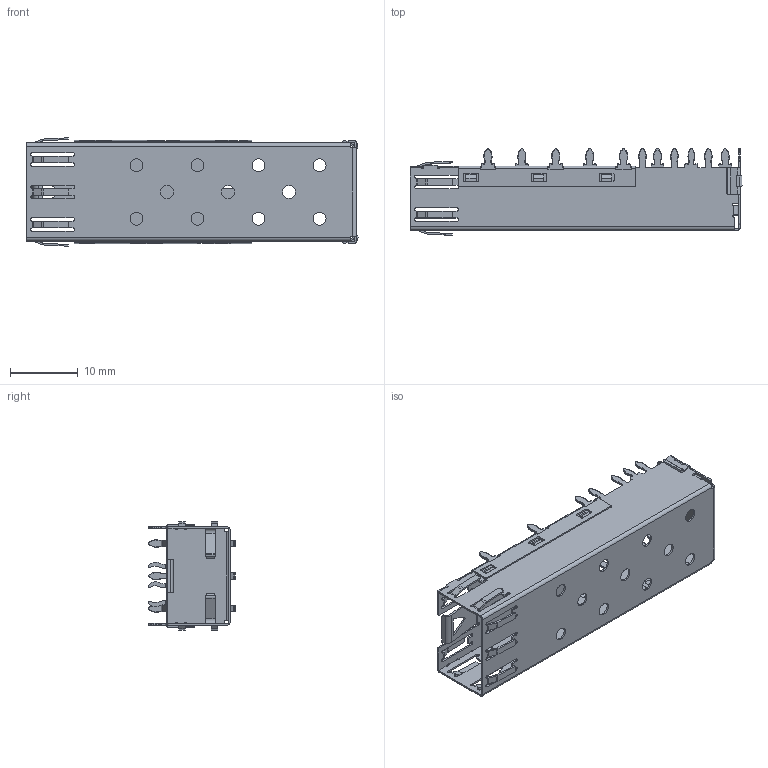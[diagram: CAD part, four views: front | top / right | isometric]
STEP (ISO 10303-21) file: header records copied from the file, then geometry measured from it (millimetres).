
FILE_DESCRIPTION (( 'STEP AP214' ), '1' );
FILE_NAME ('SA10-0000040000-0000-X.STEP', '2021-01-29T02:35:18', ( '' ), ( '' ), 'SwSTEP 2.0', 'SolidWorks 2012', '' );
FILE_SCHEMA (( 'AUTOMOTIVE_DESIGN' ));
Length unit declared in the file: millimetre
Products named in the file (1): SA10-0000040000-0000-X
Bounding box: 48.97 x 12.8 x 16 mm (x, y, z)
Volume: 562.7 mm3; surface area: 4748.8 mm2
Topology: 2 solids, 2 shells, 1359 faces, 3679 edges, 2318 vertices
Faces by surface type: plane 718, cylinder 569, bspline 72
Entity records: 63311 total; most frequent: CARTESIAN_POINT 14251, ORIENTED_EDGE 7358, DIRECTION 6857, EDGE_CURVE 3679, LINE 2321, VECTOR 2321, VERTEX_POINT 2318, AXIS2_PLACEMENT_3D 2268
